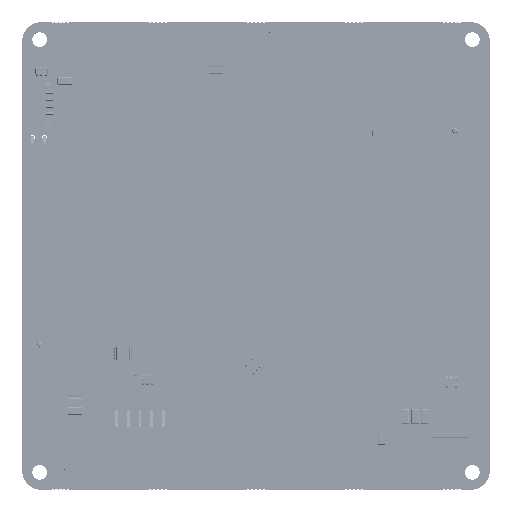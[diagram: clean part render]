
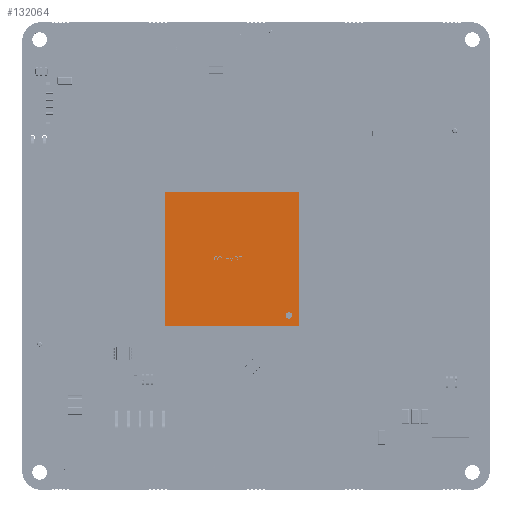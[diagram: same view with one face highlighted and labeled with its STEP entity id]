
A CAD part, top view. The second image highlights one B-rep face of the part: STEP entity #132064.
In plain terms, the highlighted planar face has unit normal (0, 0, 1).
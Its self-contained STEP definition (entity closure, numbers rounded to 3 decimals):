
#131973 = VERTEX_POINT('',#131974);
#131974 = CARTESIAN_POINT('',(-14.5,-14.5,3.1));
#131980 = EDGE_CURVE('',#131981,#131973,#131983,.T.);
#131981 = VERTEX_POINT('',#131982);
#131982 = CARTESIAN_POINT('',(-14.5,14.5,3.1));
#131983 = LINE('',#131984,#131985);
#131984 = CARTESIAN_POINT('',(-14.5,14.5,3.1));
#131985 = VECTOR('',#131986,1.);
#131986 = DIRECTION('',(0.,-1.,0.));
#132004 = VERTEX_POINT('',#132005);
#132005 = CARTESIAN_POINT('',(14.5,-14.5,3.1));
#132011 = EDGE_CURVE('',#131973,#132004,#132012,.T.);
#132012 = LINE('',#132013,#132014);
#132013 = CARTESIAN_POINT('',(-14.5,-14.5,3.1));
#132014 = VECTOR('',#132015,1.);
#132015 = DIRECTION('',(1.,0.,0.));
#132028 = VERTEX_POINT('',#132029);
#132029 = CARTESIAN_POINT('',(14.5,14.5,3.1));
#132035 = EDGE_CURVE('',#132004,#132028,#132036,.T.);
#132036 = LINE('',#132037,#132038);
#132037 = CARTESIAN_POINT('',(14.5,-14.5,3.1));
#132038 = VECTOR('',#132039,1.);
#132039 = DIRECTION('',(0.,1.,0.));
#132052 = EDGE_CURVE('',#132028,#131981,#132053,.T.);
#132053 = LINE('',#132054,#132055);
#132054 = CARTESIAN_POINT('',(14.5,14.5,3.1));
#132055 = VECTOR('',#132056,1.);
#132056 = DIRECTION('',(-1.,0.,0.));
#132064 = ADVANCED_FACE('',(#132065),#132071,.F.);
#132065 = FACE_BOUND('',#132066,.T.);
#132066 = EDGE_LOOP('',(#132067,#132068,#132069,#132070));
#132067 = ORIENTED_EDGE('',*,*,#132011,.T.);
#132068 = ORIENTED_EDGE('',*,*,#132035,.T.);
#132069 = ORIENTED_EDGE('',*,*,#132052,.T.);
#132070 = ORIENTED_EDGE('',*,*,#131980,.T.);
#132071 = PLANE('',#132072);
#132072 = AXIS2_PLACEMENT_3D('',#132073,#132074,#132075);
#132073 = CARTESIAN_POINT('',(-14.5,14.5,3.1));
#132074 = DIRECTION('',(0.,0.,-1.));
#132075 = DIRECTION('',(-1.,0.,0.));
